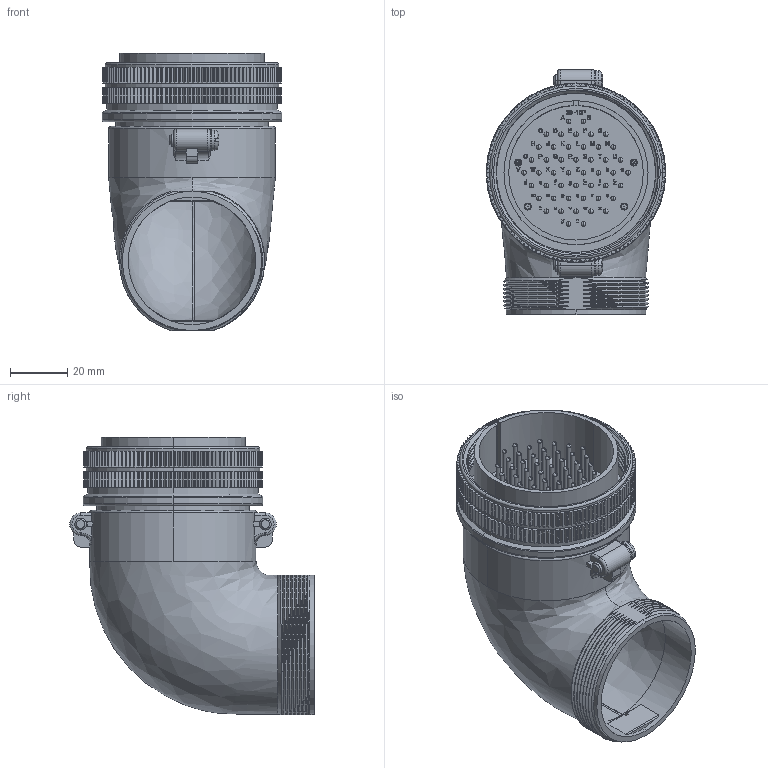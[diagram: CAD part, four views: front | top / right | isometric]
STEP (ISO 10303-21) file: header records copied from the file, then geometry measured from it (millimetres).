
FILE_DESCRIPTION (( 'STEP AP203' ), '1' );
FILE_NAME ('DMS3108B36-10P.STEP', '2017-11-06T02:52:12', ( '' ), ( '' ), 'SwSTEP 2.0', 'SolidWorks 2015', '' );
FILE_SCHEMA (( 'CONFIG_CONTROL_DESIGN' ));
Products named in the file (1): DMS3108B36-10P
Bounding box: 62.63 x 85.25 x 96.5 mm (x, y, z)
Volume: 81394.6 mm3; surface area: 64442.6 mm2
Topology: 1 solids, 1 shells, 4509 faces, 12261 edges, 8012 vertices
Faces by surface type: plane 2275, bspline 1005, cylinder 993, cone 116, sphere 100, torus 20
Entity records: 196580 total; most frequent: CARTESIAN_POINT 89228, ORIENTED_EDGE 24330, DIRECTION 18792, EDGE_CURVE 12165, VERTEX_POINT 8012, LINE 7700, VECTOR 7700, AXIS2_PLACEMENT_3D 5546
